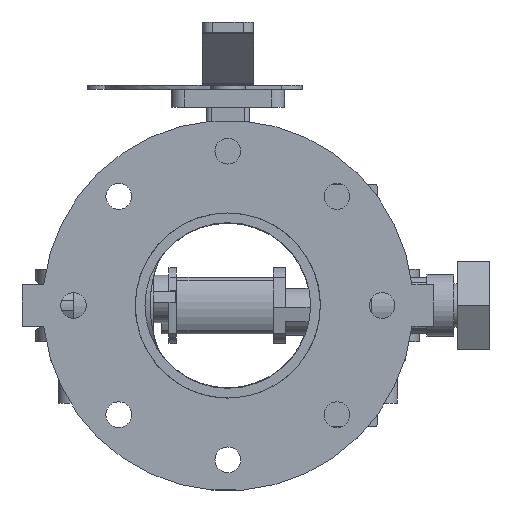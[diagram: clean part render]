
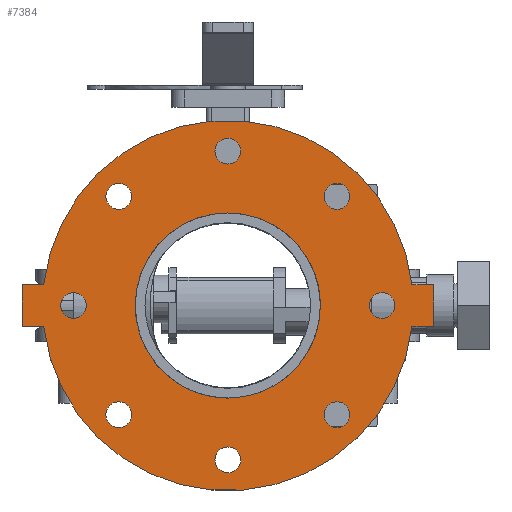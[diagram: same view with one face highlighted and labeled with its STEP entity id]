
A CAD part, front view. The second image highlights one B-rep face of the part: STEP entity #7384.
In plain terms, the highlighted planar face has unit normal (0, -1, 0) as drawn and (0, 0, -1) by its records, which use the part's own axes.
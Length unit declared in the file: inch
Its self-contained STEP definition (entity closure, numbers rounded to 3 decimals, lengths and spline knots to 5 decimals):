
#157=FACE_BOUND('',#907,.T.);
#158=FACE_BOUND('',#908,.T.);
#159=FACE_BOUND('',#909,.T.);
#160=FACE_BOUND('',#910,.T.);
#161=FACE_BOUND('',#911,.T.);
#162=FACE_BOUND('',#912,.T.);
#163=FACE_BOUND('',#913,.T.);
#164=FACE_BOUND('',#914,.T.);
#165=FACE_BOUND('',#915,.T.);
#251=PLANE('',#7982);
#497=FACE_OUTER_BOUND('',#906,.T.);
#906=EDGE_LOOP('',(#4743,#4744,#4745,#4746,#4747,#4748,#4749,#4750));
#907=EDGE_LOOP('',(#4751));
#908=EDGE_LOOP('',(#4752));
#909=EDGE_LOOP('',(#4753));
#910=EDGE_LOOP('',(#4754));
#911=EDGE_LOOP('',(#4755));
#912=EDGE_LOOP('',(#4756));
#913=EDGE_LOOP('',(#4757));
#914=EDGE_LOOP('',(#4758));
#915=EDGE_LOOP('',(#4759,#4760));
#1409=LINE('',#11164,#1982);
#1410=LINE('',#11166,#1983);
#1411=LINE('',#11168,#1984);
#1412=LINE('',#11172,#1985);
#1413=LINE('',#11174,#1986);
#1414=LINE('',#11175,#1987);
#1982=VECTOR('',#8880,0.3937);
#1983=VECTOR('',#8881,0.3937);
#1984=VECTOR('',#8882,0.3937);
#1985=VECTOR('',#8885,0.3937);
#1986=VECTOR('',#8886,0.3937);
#1987=VECTOR('',#8887,0.3937);
#2548=CIRCLE('',#7960,0.3125);
#2550=CIRCLE('',#7963,0.3125);
#2552=CIRCLE('',#7966,0.3125);
#2554=CIRCLE('',#7969,0.3125);
#2556=CIRCLE('',#7972,0.3125);
#2558=CIRCLE('',#7975,0.3125);
#2560=CIRCLE('',#7978,0.3125);
#2562=CIRCLE('',#7981,0.3125);
#2563=CIRCLE('',#7983,4.5);
#2564=CIRCLE('',#7984,4.5);
#2565=CIRCLE('',#7985,2.25);
#2566=CIRCLE('',#7986,2.25);
#2959=VERTEX_POINT('',#11114);
#2961=VERTEX_POINT('',#11120);
#2963=VERTEX_POINT('',#11126);
#2965=VERTEX_POINT('',#11132);
#2967=VERTEX_POINT('',#11138);
#2969=VERTEX_POINT('',#11144);
#2971=VERTEX_POINT('',#11150);
#2973=VERTEX_POINT('',#11156);
#2974=VERTEX_POINT('',#11160);
#2975=VERTEX_POINT('',#11161);
#2976=VERTEX_POINT('',#11163);
#2977=VERTEX_POINT('',#11165);
#2978=VERTEX_POINT('',#11167);
#2979=VERTEX_POINT('',#11169);
#2980=VERTEX_POINT('',#11171);
#2981=VERTEX_POINT('',#11173);
#2982=VERTEX_POINT('',#11176);
#2983=VERTEX_POINT('',#11177);
#3662=EDGE_CURVE('',#2959,#2959,#2548,.T.);
#3665=EDGE_CURVE('',#2961,#2961,#2550,.T.);
#3668=EDGE_CURVE('',#2963,#2963,#2552,.T.);
#3671=EDGE_CURVE('',#2965,#2965,#2554,.T.);
#3674=EDGE_CURVE('',#2967,#2967,#2556,.T.);
#3677=EDGE_CURVE('',#2969,#2969,#2558,.T.);
#3680=EDGE_CURVE('',#2971,#2971,#2560,.T.);
#3683=EDGE_CURVE('',#2973,#2973,#2562,.T.);
#3684=EDGE_CURVE('',#2974,#2975,#2563,.T.);
#3685=EDGE_CURVE('',#2975,#2976,#1409,.T.);
#3686=EDGE_CURVE('',#2976,#2977,#1410,.T.);
#3687=EDGE_CURVE('',#2977,#2978,#1411,.T.);
#3688=EDGE_CURVE('',#2978,#2979,#2564,.T.);
#3689=EDGE_CURVE('',#2979,#2980,#1412,.T.);
#3690=EDGE_CURVE('',#2980,#2981,#1413,.T.);
#3691=EDGE_CURVE('',#2981,#2974,#1414,.T.);
#3692=EDGE_CURVE('',#2982,#2983,#2565,.T.);
#3693=EDGE_CURVE('',#2983,#2982,#2566,.T.);
#4743=ORIENTED_EDGE('',*,*,#3684,.T.);
#4744=ORIENTED_EDGE('',*,*,#3685,.T.);
#4745=ORIENTED_EDGE('',*,*,#3686,.T.);
#4746=ORIENTED_EDGE('',*,*,#3687,.T.);
#4747=ORIENTED_EDGE('',*,*,#3688,.T.);
#4748=ORIENTED_EDGE('',*,*,#3689,.T.);
#4749=ORIENTED_EDGE('',*,*,#3690,.T.);
#4750=ORIENTED_EDGE('',*,*,#3691,.T.);
#4751=ORIENTED_EDGE('',*,*,#3662,.T.);
#4752=ORIENTED_EDGE('',*,*,#3665,.T.);
#4753=ORIENTED_EDGE('',*,*,#3668,.T.);
#4754=ORIENTED_EDGE('',*,*,#3671,.T.);
#4755=ORIENTED_EDGE('',*,*,#3674,.T.);
#4756=ORIENTED_EDGE('',*,*,#3677,.T.);
#4757=ORIENTED_EDGE('',*,*,#3680,.T.);
#4758=ORIENTED_EDGE('',*,*,#3683,.T.);
#4759=ORIENTED_EDGE('',*,*,#3692,.T.);
#4760=ORIENTED_EDGE('',*,*,#3693,.T.);
#7384=ADVANCED_FACE('',(#497,#157,#158,#159,#160,#161,#162,#163,#164,#165),
#251,.T.);
#7960=AXIS2_PLACEMENT_3D('',#11116,#8825,#8826);
#7963=AXIS2_PLACEMENT_3D('',#11122,#8832,#8833);
#7966=AXIS2_PLACEMENT_3D('',#11128,#8839,#8840);
#7969=AXIS2_PLACEMENT_3D('',#11134,#8846,#8847);
#7972=AXIS2_PLACEMENT_3D('',#11140,#8853,#8854);
#7975=AXIS2_PLACEMENT_3D('',#11146,#8860,#8861);
#7978=AXIS2_PLACEMENT_3D('',#11152,#8867,#8868);
#7981=AXIS2_PLACEMENT_3D('',#11158,#8874,#8875);
#7982=AXIS2_PLACEMENT_3D('',#11159,#8876,#8877);
#7983=AXIS2_PLACEMENT_3D('',#11162,#8878,#8879);
#7984=AXIS2_PLACEMENT_3D('',#11170,#8883,#8884);
#7985=AXIS2_PLACEMENT_3D('',#11178,#8888,#8889);
#7986=AXIS2_PLACEMENT_3D('',#11179,#8890,#8891);
#8825=DIRECTION('center_axis',(0.,0.,1.));
#8826=DIRECTION('ref_axis',(-0.707,0.707,0.));
#8832=DIRECTION('center_axis',(0.,0.,1.));
#8833=DIRECTION('ref_axis',(0.,1.,0.));
#8839=DIRECTION('center_axis',(0.,0.,1.));
#8840=DIRECTION('ref_axis',(0.707,0.707,0.));
#8846=DIRECTION('center_axis',(0.,0.,1.));
#8847=DIRECTION('ref_axis',(1.,0.,0.));
#8853=DIRECTION('center_axis',(0.,0.,1.));
#8854=DIRECTION('ref_axis',(0.707,-0.707,0.));
#8860=DIRECTION('center_axis',(0.,0.,1.));
#8861=DIRECTION('ref_axis',(0.,-1.,0.));
#8867=DIRECTION('center_axis',(0.,0.,1.));
#8868=DIRECTION('ref_axis',(-0.707,-0.707,0.));
#8874=DIRECTION('center_axis',(0.,0.,1.));
#8875=DIRECTION('ref_axis',(-1.,0.,0.));
#8876=DIRECTION('center_axis',(0.,0.,-1.));
#8877=DIRECTION('ref_axis',(-1.,0.,0.));
#8878=DIRECTION('center_axis',(0.,0.,-1.));
#8879=DIRECTION('ref_axis',(-1.,0.,0.));
#8880=DIRECTION('',(0.,1.,0.));
#8881=DIRECTION('',(1.,0.,0.));
#8882=DIRECTION('',(0.,-1.,0.));
#8883=DIRECTION('center_axis',(0.,0.,-1.));
#8884=DIRECTION('ref_axis',(-1.,0.,0.));
#8885=DIRECTION('',(0.,-1.,0.));
#8886=DIRECTION('',(-1.,0.,0.));
#8887=DIRECTION('',(0.,1.,0.));
#8888=DIRECTION('center_axis',(0.,0.,1.));
#8889=DIRECTION('ref_axis',(-1.,0.,0.));
#8890=DIRECTION('center_axis',(0.,0.,1.));
#8891=DIRECTION('ref_axis',(-1.,0.,0.));
#11114=CARTESIAN_POINT('',(-2.43068,2.43068,-0.5));
#11116=CARTESIAN_POINT('Origin',(-2.65165,2.65165,-0.5));
#11120=CARTESIAN_POINT('',(0.,3.4375,-0.5));
#11122=CARTESIAN_POINT('Origin',(0.,3.75,-0.5));
#11126=CARTESIAN_POINT('',(2.43068,2.43068,-0.5));
#11128=CARTESIAN_POINT('Origin',(2.65165,2.65165,-0.5));
#11132=CARTESIAN_POINT('',(3.4375,0.,-0.5));
#11134=CARTESIAN_POINT('Origin',(3.75,0.,-0.5));
#11138=CARTESIAN_POINT('',(2.43068,-2.43068,-0.5));
#11140=CARTESIAN_POINT('Origin',(2.65165,-2.65165,-0.5));
#11144=CARTESIAN_POINT('',(0.,-3.4375,-0.5));
#11146=CARTESIAN_POINT('Origin',(0.,-3.75,-0.5));
#11150=CARTESIAN_POINT('',(-2.43068,-2.43068,-0.5));
#11152=CARTESIAN_POINT('Origin',(-2.65165,-2.65165,-0.5));
#11156=CARTESIAN_POINT('',(-3.4375,0.,-0.5));
#11158=CARTESIAN_POINT('Origin',(-3.75,0.,-0.5));
#11159=CARTESIAN_POINT('Origin',(0.,0.,-0.5));
#11160=CARTESIAN_POINT('',(-0.5,-4.47214,-0.5));
#11161=CARTESIAN_POINT('',(-0.5,4.47214,-0.5));
#11162=CARTESIAN_POINT('Origin',(0.,0.,-0.5));
#11163=CARTESIAN_POINT('',(-0.5,5.,-0.5));
#11164=CARTESIAN_POINT('',(-0.5,-5.,-0.5));
#11165=CARTESIAN_POINT('',(0.5,5.,-0.5));
#11166=CARTESIAN_POINT('',(-0.5,5.,-0.5));
#11167=CARTESIAN_POINT('',(0.5,4.47214,-0.5));
#11168=CARTESIAN_POINT('',(0.5,5.,-0.5));
#11169=CARTESIAN_POINT('',(0.5,-4.47214,-0.5));
#11170=CARTESIAN_POINT('Origin',(0.,0.,-0.5));
#11171=CARTESIAN_POINT('',(0.5,-5.,-0.5));
#11172=CARTESIAN_POINT('',(0.5,5.,-0.5));
#11173=CARTESIAN_POINT('',(-0.5,-5.,-0.5));
#11174=CARTESIAN_POINT('',(0.5,-5.,-0.5));
#11175=CARTESIAN_POINT('',(-0.5,-5.,-0.5));
#11176=CARTESIAN_POINT('',(0.5,2.19374,-0.5));
#11177=CARTESIAN_POINT('',(2.25,0.,-0.5));
#11178=CARTESIAN_POINT('Origin',(0.,0.,-0.5));
#11179=CARTESIAN_POINT('Origin',(0.,0.,-0.5));
